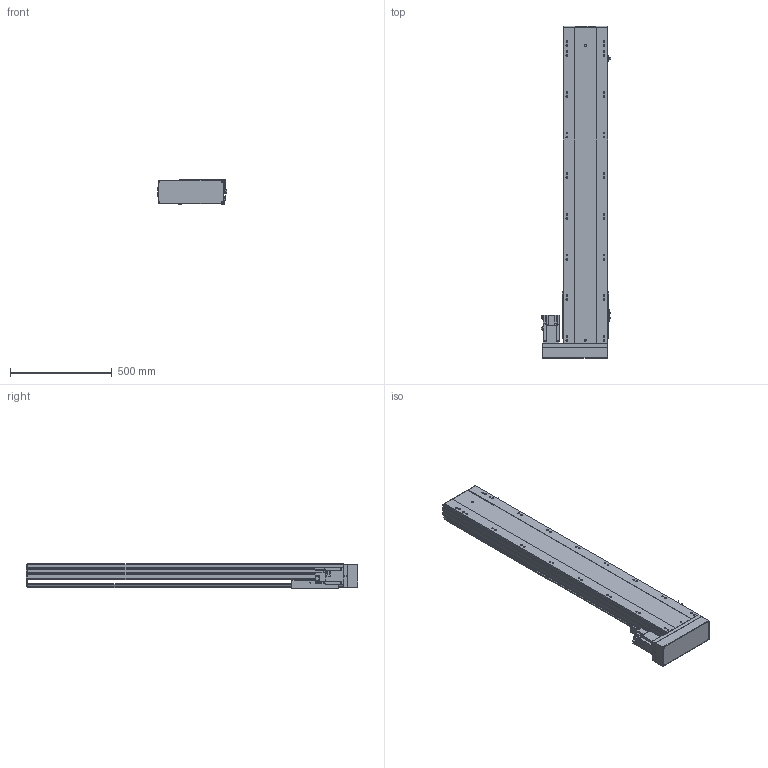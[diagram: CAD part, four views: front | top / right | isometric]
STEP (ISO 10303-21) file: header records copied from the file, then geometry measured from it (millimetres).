
FILE_DESCRIPTION (( 'STEP AP203' ), '1' );
FILE_NAME ('25.STEP', '2020-11-23T02:12:39', ( '' ), ( '' ), 'SwSTEP 2.0', 'SolidWorks 2016', '' );
FILE_SCHEMA (( 'CONFIG_CONTROL_DESIGN' ));
Length unit declared in the file: millimetre
Products named in the file (7): 25; BTH22-BL-04; BTH22-BL-菁釱; BTH22-BL-T75; BTH22-BL-02; BTH22-BL-HZ; BTH22-BL-01
Assembly tree (8 placements, depth 2):
  25
    BTH22-BL-菁釱
    BTH22-BL-01
    BTH22-BL-02
    BTH22-BL-04  x3
    BTH22-BL-HZ
    BTH22-BL-T75
Bounding box: 340 x 1632 x 122.7 mm (x, y, z)
Volume: 20695973.1 mm3; surface area: 2670719.7 mm2
Topology: 11 solids, 11 shells, 1070 faces, 3020 edges, 1967 vertices
Faces by surface type: plane 569, cylinder 451, cone 42, bspline 8
Entity records: 32597 total; most frequent: CARTESIAN_POINT 6836, ORIENTED_EDGE 5276, DIRECTION 5204, EDGE_CURVE 2638, AXIS2_PLACEMENT_3D 1767, VERTEX_POINT 1735, VECTOR 1670, LINE 1670
